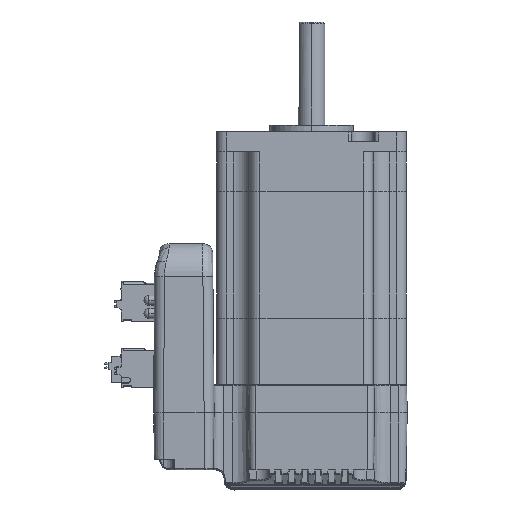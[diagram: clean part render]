
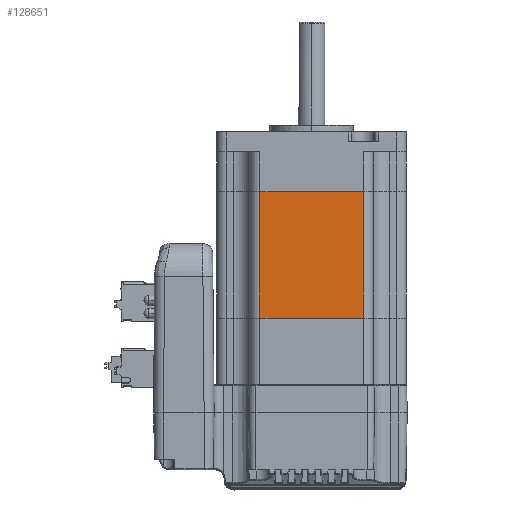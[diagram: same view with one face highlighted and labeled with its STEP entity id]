
A CAD part, left-side view. The second image highlights one B-rep face of the part: STEP entity #128651.
In plain terms, the highlighted planar face has unit normal (-1, 0, 0).
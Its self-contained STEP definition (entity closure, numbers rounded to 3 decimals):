
#185 = LINE ( 'NONE', #74390, #152758 ) ;
#878 = FACE_OUTER_BOUND ( 'NONE', #44097, .T. ) ;
#4896 = LINE ( 'NONE', #114059, #149957 ) ;
#16666 = DIRECTION ( 'NONE',  ( 0., 0., 1. ) ) ;
#17308 = CARTESIAN_POINT ( 'NONE',  ( -28.5, -15.5, 0. ) ) ;
#17964 = VERTEX_POINT ( 'NONE', #58622 ) ;
#19052 = ORIENTED_EDGE ( 'NONE', *, *, #126518, .F. ) ;
#19265 = CARTESIAN_POINT ( 'NONE',  ( -28.5, 15.5, 38. ) ) ;
#31406 = DIRECTION ( 'NONE',  ( 0., 0., -1. ) ) ;
#39239 = VERTEX_POINT ( 'NONE', #17308 ) ;
#40359 = CARTESIAN_POINT ( 'NONE',  ( -28.5, -62.841, 38. ) ) ;
#44097 = EDGE_LOOP ( 'NONE', ( #19052, #135390, #106134, #57735 ) ) ;
#57735 = ORIENTED_EDGE ( 'NONE', *, *, #109634, .F. ) ;
#58622 = CARTESIAN_POINT ( 'NONE',  ( -28.5, 15.5, 38. ) ) ;
#72770 = CARTESIAN_POINT ( 'NONE',  ( -28.5, -62.841, 0. ) ) ;
#73427 = LINE ( 'NONE', #72770, #105520 ) ;
#74390 = CARTESIAN_POINT ( 'NONE',  ( -28.5, -15.5, 38. ) ) ;
#74501 = LINE ( 'NONE', #19265, #102807 ) ;
#76637 = PLANE ( 'NONE',  #152372 ) ;
#84901 = DIRECTION ( 'NONE',  ( 0., -1., 0. ) ) ;
#88766 = DIRECTION ( 'NONE',  ( -1., 0., 0. ) ) ;
#96971 = EDGE_CURVE ( 'NONE', #126189, #39239, #73427, .T. ) ;
#100467 = EDGE_CURVE ( 'NONE', #17964, #126189, #74501, .T. ) ;
#102807 = VECTOR ( 'NONE', #31406, 1000. ) ;
#105520 = VECTOR ( 'NONE', #84901, 1000. ) ;
#106134 = ORIENTED_EDGE ( 'NONE', *, *, #96971, .T. ) ;
#106337 = CARTESIAN_POINT ( 'NONE',  ( -28.5, 15.5, 0. ) ) ;
#109634 = EDGE_CURVE ( 'NONE', #142538, #39239, #185, .T. ) ;
#114059 = CARTESIAN_POINT ( 'NONE',  ( -28.5, -62.841, 38. ) ) ;
#124104 = CARTESIAN_POINT ( 'NONE',  ( -28.5, -15.5, 38. ) ) ;
#126189 = VERTEX_POINT ( 'NONE', #106337 ) ;
#126237 = DIRECTION ( 'NONE',  ( 0., -1., 0. ) ) ;
#126518 = EDGE_CURVE ( 'NONE', #17964, #142538, #4896, .T. ) ;
#128651 = ADVANCED_FACE ( 'NONE', ( #878 ), #76637, .T. ) ;
#135390 = ORIENTED_EDGE ( 'NONE', *, *, #100467, .T. ) ;
#142538 = VERTEX_POINT ( 'NONE', #124104 ) ;
#146569 = DIRECTION ( 'NONE',  ( 0., 0., -1. ) ) ;
#149957 = VECTOR ( 'NONE', #126237, 1000. ) ;
#152372 = AXIS2_PLACEMENT_3D ( 'NONE', #40359, #88766, #16666 ) ;
#152758 = VECTOR ( 'NONE', #146569, 1000. ) ;
